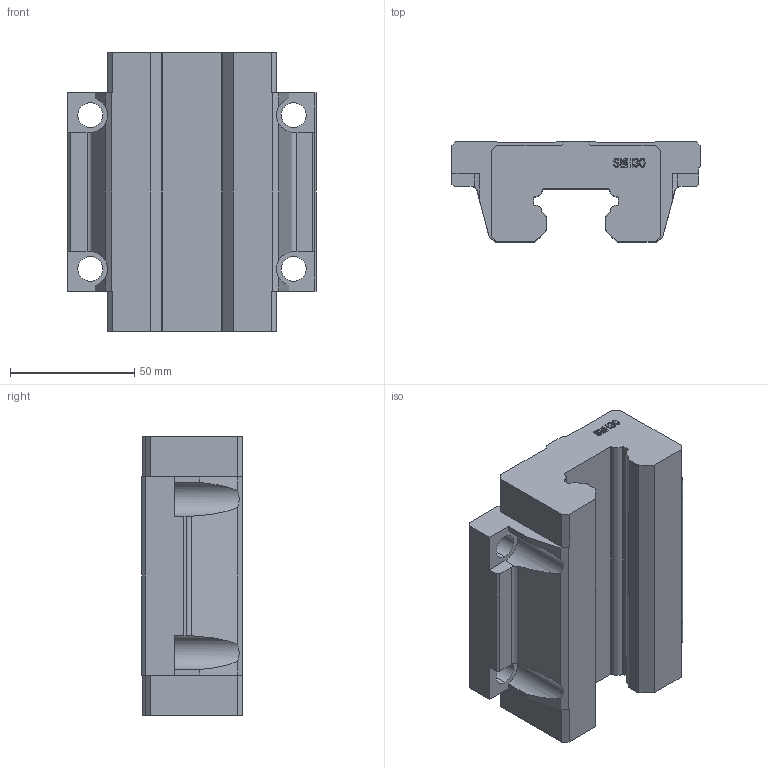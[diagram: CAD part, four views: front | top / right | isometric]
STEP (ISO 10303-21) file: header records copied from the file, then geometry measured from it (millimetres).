
FILE_DESCRIPTION (( 'STEP AP203' ), '1' );
FILE_NAME ('SMH35A.stp', '2019-09-23T02:50:54', ( 'pgos' ), ( '' ), 'SwSTEP 2.0', 'SolidWorks 2014', '' );
FILE_SCHEMA (( 'CONFIG_CONTROL_DESIGN' ));
Length unit declared in the file: millimetre
Products named in the file (1): SMH35A
Bounding box: 100 x 40.5 x 112.4 mm (x, y, z)
Volume: 283253.8 mm3; surface area: 40948.2 mm2
Topology: 1 solids, 1 shells, 165 faces, 471 edges, 314 vertices
Faces by surface type: plane 123, cylinder 22, bspline 20
Entity records: 7426 total; most frequent: CARTESIAN_POINT 3163, ORIENTED_EDGE 942, DIRECTION 747, EDGE_CURVE 471, LINE 375, VECTOR 375, VERTEX_POINT 314, AXIS2_PLACEMENT_3D 186
